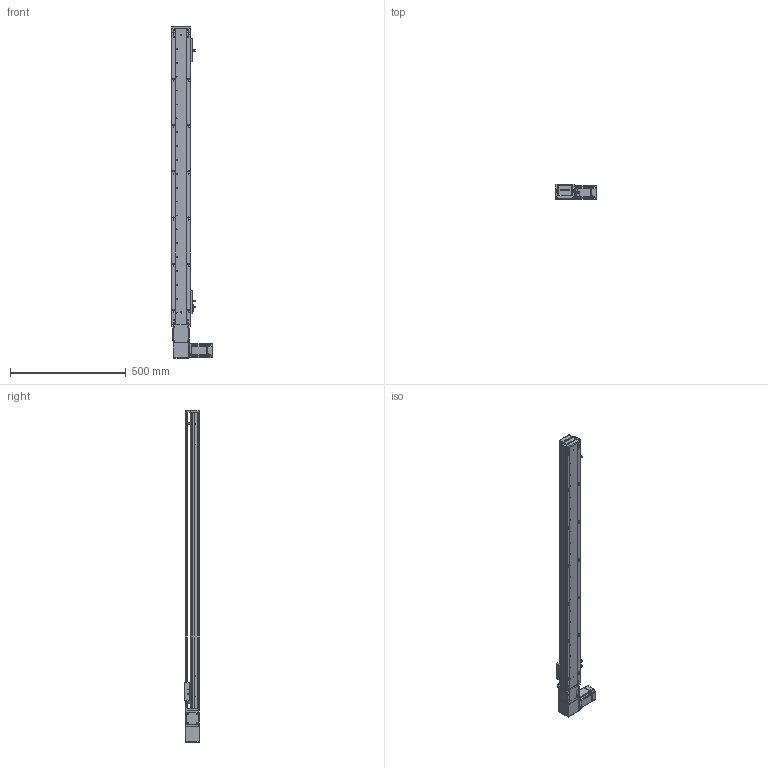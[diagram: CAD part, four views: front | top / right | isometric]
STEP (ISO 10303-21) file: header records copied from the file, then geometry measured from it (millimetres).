
FILE_DESCRIPTION (( 'STEP AP203' ), '1' );
FILE_NAME ('RY80-T-300-RK.SLDASM_1100.step', '2021-03-01T02:07:29', ( '盈信电脑' ), ( '东莞市道滘镇水果街19号' ), 'SwSTEP 2.0', 'SolidWorks 2012', '' );
FILE_SCHEMA (( 'CONFIG_CONTROL_DESIGN' ));
Length unit declared in the file: millimetre
Products named in the file (20): 滅袉蝶18-10; RY80-T肮祭謫俋欶; RY80-T翋肮祭謫裔啣; RY100-T粣創揤踡裔; RY80-T-300-RK.SLDASM_1100; RY80-T肮祭湍揤輸2; RY80-T粣創揤踡輸; RY80-T-M4蹟翐; RY80-T-翋肮祭謫釱; 侂狟200W萇儂; RY80-T肮祭湍揤輸1; RY80-T萇儂假蚾啣; 1; 672嫖萇羲壽假蚾釱; RY80俋离覜茼え; 覜茼ん672; RY80-T肮祭謫臏賑輸; RY80-T-300-RK倰第奻裔啣_1100; RY80-T綴裔啣; RY80-T-300-RK倰第菁釱_1100
Assembly tree (25 placements, depth 3):
  RY80-T-300-RK.SLDASM_1100
    RY80-T-300-RK倰第菁釱_1100
    RY80-T肮祭謫臏賑輸
    RY80-T-300-RK倰第奻裔啣_1100
    RY80-T綴裔啣
    672嫖萇羲壽假蚾釱  x2
    覜茼ん672  x3
    RY80俋离覜茼え
    侂狟200W萇儂
      1
    RY80-T-翋肮祭謫釱
    RY80-T萇儂假蚾啣
    RY80-T肮祭湍揤輸1
    RY80-T肮祭湍揤輸2
    RY80-T粣創揤踡輸
    RY80-T-M4蹟翐  x2
    RY80-T翋肮祭謫裔啣  x2
    RY80-T肮祭謫俋欶
    滅袉蝶18-10  x2
    RY100-T粣創揤踡裔
Bounding box: 180 x 65 x 1435 mm (x, y, z)
Volume: 2323377.8 mm3; surface area: 972400.6 mm2
Topology: 24 solids, 24 shells, 2496 faces, 6875 edges, 4469 vertices
Faces by surface type: plane 1334, cylinder 958, cone 148, bspline 56
Entity records: 78434 total; most frequent: CARTESIAN_POINT 18857, ORIENTED_EDGE 12194, DIRECTION 11506, EDGE_CURVE 6097, VERTEX_POINT 4010, AXIS2_PLACEMENT_3D 3879, LINE 3748, VECTOR 3748
